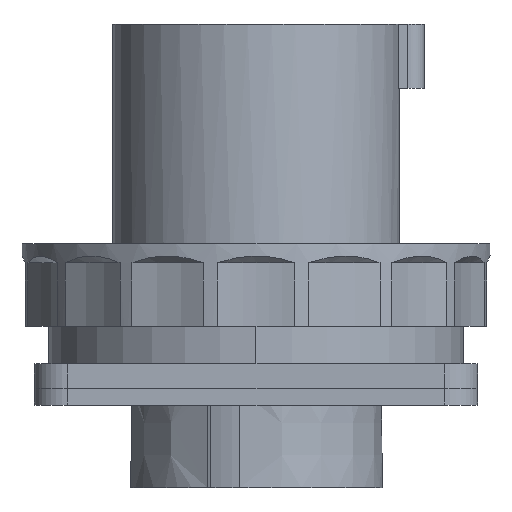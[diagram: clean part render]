
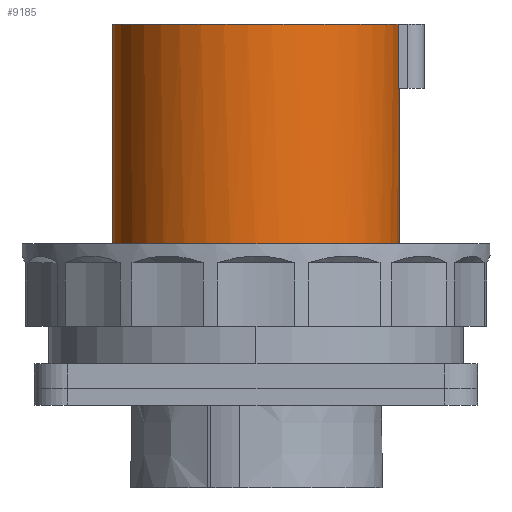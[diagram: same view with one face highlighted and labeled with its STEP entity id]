
A CAD part, left-side view. The second image highlights one B-rep face of the part: STEP entity #9185.
In plain terms, the highlighted cylindrical face has radius 34.55 mm (diameter 69.1 mm), a partial arc.
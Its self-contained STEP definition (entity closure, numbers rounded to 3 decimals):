
#6864=CARTESIAN_POINT('',(0.,0.,-66.8));
#6865=DIRECTION('',(0.,0.,1.));
#6866=DIRECTION('',(0.116,-0.993,0.));
#6867=AXIS2_PLACEMENT_3D('',#6864,#6865,#6866);
#6883=DIRECTION('',(0.,0.,1.));
#6884=VECTOR('',#6883,62.);
#6885=CARTESIAN_POINT('',(0.,34.55,-66.8));
#6886=LINE('',#6885,#6884);
#6891=CARTESIAN_POINT('',(0.,0.,-51.3));
#6892=DIRECTION('',(0.,0.,1.));
#6893=DIRECTION('',(0.,-1.,0.));
#6894=AXIS2_PLACEMENT_3D('',#6891,#6892,#6893);
#6906=DIRECTION('',(0.,0.,1.));
#6907=VECTOR('',#6906,15.5);
#6908=CARTESIAN_POINT('',(4.,-34.318,-66.8));
#6909=LINE('',#6908,#6907);
#6910=DIRECTION('',(0.,0.,1.));
#6911=VECTOR('',#6910,46.5);
#6912=CARTESIAN_POINT('',(0.,-34.55,-51.3));
#6913=LINE('',#6912,#6911);
#6931=CARTESIAN_POINT('',(0.,0.,-4.8));
#6932=DIRECTION('',(0.,0.,-1.));
#6933=DIRECTION('',(0.,1.,0.));
#6934=AXIS2_PLACEMENT_3D('',#6931,#6932,#6933);
#8616=CARTESIAN_POINT('',(0.,34.55,-66.8));
#8618=VERTEX_POINT('',#8616);
#8624=CARTESIAN_POINT('',(4.,-34.318,-66.8));
#8625=VERTEX_POINT('',#8624);
#8632=CARTESIAN_POINT('',(0.,34.55,-4.8));
#8633=VERTEX_POINT('',#8632);
#8634=CARTESIAN_POINT('',(0.,-34.55,-4.8));
#8635=VERTEX_POINT('',#8634);
#8636=CARTESIAN_POINT('',(0.,-34.55,-51.3));
#8637=VERTEX_POINT('',#8636);
#8640=CARTESIAN_POINT('',(4.,-34.318,-51.3));
#8641=VERTEX_POINT('',#8640);
#9170=CARTESIAN_POINT('',(0.,0.,-71.1));
#9171=DIRECTION('',(0.,0.,1.));
#9172=DIRECTION('',(0.,-1.,0.));
#9173=AXIS2_PLACEMENT_3D('',#9170,#9171,#9172);
#9174=CYLINDRICAL_SURFACE('',#9173,34.55);
#9176=ORIENTED_EDGE('',*,*,#9175,.T.);
#9177=ORIENTED_EDGE('',*,*,#9159,.F.);
#9178=ORIENTED_EDGE('',*,*,#9133,.T.);
#9180=ORIENTED_EDGE('',*,*,#9179,.F.);
#9181=ORIENTED_EDGE('',*,*,#9129,.F.);
#9182=ORIENTED_EDGE('',*,*,#9110,.F.);
#9183=EDGE_LOOP('',(#9176,#9177,#9178,#9180,#9181,#9182));
#9184=FACE_OUTER_BOUND('',#9183,.F.);
#9185=ADVANCED_FACE('',(#9184),#9174,.T.);
#6868=CIRCLE('',#6867,34.55);
#6895=CIRCLE('',#6894,34.55);
#6935=CIRCLE('',#6934,34.55);
#9110=EDGE_CURVE('',#8625,#8618,#6868,.T.);
#9129=EDGE_CURVE('',#8618,#8633,#6886,.T.);
#9133=EDGE_CURVE('',#8637,#8635,#6913,.T.);
#9159=EDGE_CURVE('',#8637,#8641,#6895,.T.);
#9175=EDGE_CURVE('',#8625,#8641,#6909,.T.);
#9179=EDGE_CURVE('',#8633,#8635,#6935,.T.);
